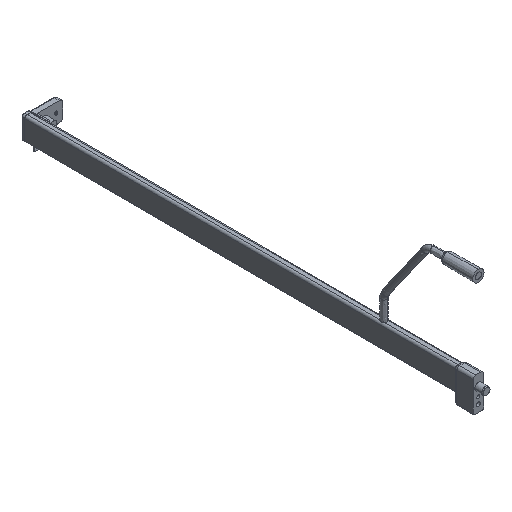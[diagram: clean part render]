
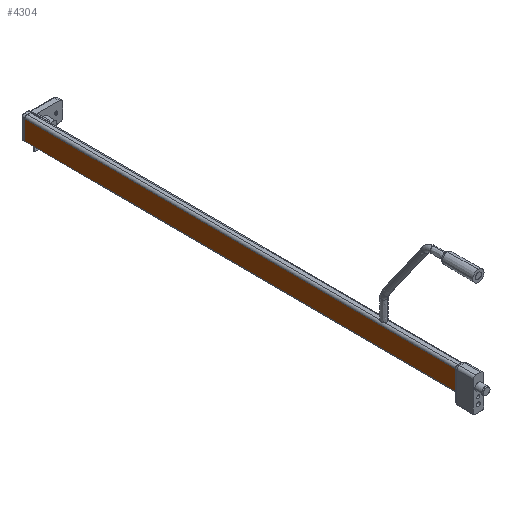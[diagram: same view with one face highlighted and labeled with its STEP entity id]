
A CAD part, isometric view. The second image highlights one B-rep face of the part: STEP entity #4304.
In plain terms, the highlighted planar face has unit normal (-1, 0, 0).
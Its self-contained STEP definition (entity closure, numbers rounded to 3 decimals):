
#28 = CARTESIAN_POINT ( 'NONE',  ( -5.25, 25., -15.5 ) ) ;
#735 = EDGE_CURVE ( 'NONE', #3379, #4549, #2910, .T. ) ;
#736 = EDGE_CURVE ( 'NONE', #3408, #2094, #2912, .T. ) ;
#739 = EDGE_CURVE ( 'NONE', #3408, #3379, #2916, .T. ) ;
#751 = EDGE_CURVE ( 'NONE', #2094, #4549, #2934, .T. ) ;
#1107 = AXIS2_PLACEMENT_3D ( 'NONE', #5190, #5191, #5192 ) ;
#1359 = EDGE_LOOP ( 'NONE', ( #5028, #5029, #5030, #5031 ) ) ;
#2094 = VERTEX_POINT ( 'NONE', #4462 ) ;
#2910 = LINE ( 'NONE', #5158, #2911 ) ;
#2911 = VECTOR ( 'NONE', #5159, 1000. ) ;
#2912 = LINE ( 'NONE', #5160, #2913 ) ;
#2913 = VECTOR ( 'NONE', #5161, 1000. ) ;
#2916 = LINE ( 'NONE', #4490, #2917 ) ;
#2917 = VECTOR ( 'NONE', #4491, 1000. ) ;
#2934 = LINE ( 'NONE', #4520, #2935 ) ;
#2935 = VECTOR ( 'NONE', #4521, 1000. ) ;
#3379 = VERTEX_POINT ( 'NONE', #4074 ) ;
#3408 = VERTEX_POINT ( 'NONE', #4090 ) ;
#3455 = FACE_OUTER_BOUND ( 'NONE', #1359, .T. ) ;
#4074 = CARTESIAN_POINT ( 'NONE',  ( -5.25, 25., 10.5 ) ) ;
#4090 = CARTESIAN_POINT ( 'NONE',  ( -5.25, 600.4, 12.2 ) ) ;
#4304 = ADVANCED_FACE ( 'NONE', ( #3455 ), #5189, .F. ) ;
#4462 = CARTESIAN_POINT ( 'NONE',  ( -5.25, 600.4, -13.8 ) ) ;
#4490 = CARTESIAN_POINT ( 'NONE',  ( -5.25, 634.149, 12.3 ) ) ;
#4491 = DIRECTION ( 'NONE',  ( 0., -1., -0.003 ) ) ;
#4520 = CARTESIAN_POINT ( 'NONE',  ( -5.25, 634.226, -13.7 ) ) ;
#4521 = DIRECTION ( 'NONE',  ( 0., -1., -0.003 ) ) ;
#4549 = VERTEX_POINT ( 'NONE', #28 ) ;
#5028 = ORIENTED_EDGE ( 'NONE', *, *, #736, .T. ) ;
#5029 = ORIENTED_EDGE ( 'NONE', *, *, #751, .T. ) ;
#5030 = ORIENTED_EDGE ( 'NONE', *, *, #735, .F. ) ;
#5031 = ORIENTED_EDGE ( 'NONE', *, *, #739, .F. ) ;
#5158 = CARTESIAN_POINT ( 'NONE',  ( -5.25, 25., 15. ) ) ;
#5159 = DIRECTION ( 'NONE',  ( 0., 0., -1. ) ) ;
#5160 = CARTESIAN_POINT ( 'NONE',  ( -5.25, 600.4, -13.7 ) ) ;
#5161 = DIRECTION ( 'NONE',  ( 0., 0., -1. ) ) ;
#5189 = PLANE ( 'NONE',  #1107 ) ;
#5190 = CARTESIAN_POINT ( 'NONE',  ( -5.25, 634.226, -13.7 ) ) ;
#5191 = DIRECTION ( 'NONE',  ( 1., 0., 0. ) ) ;
#5192 = DIRECTION ( 'NONE',  ( 0., 0., -1. ) ) ;
